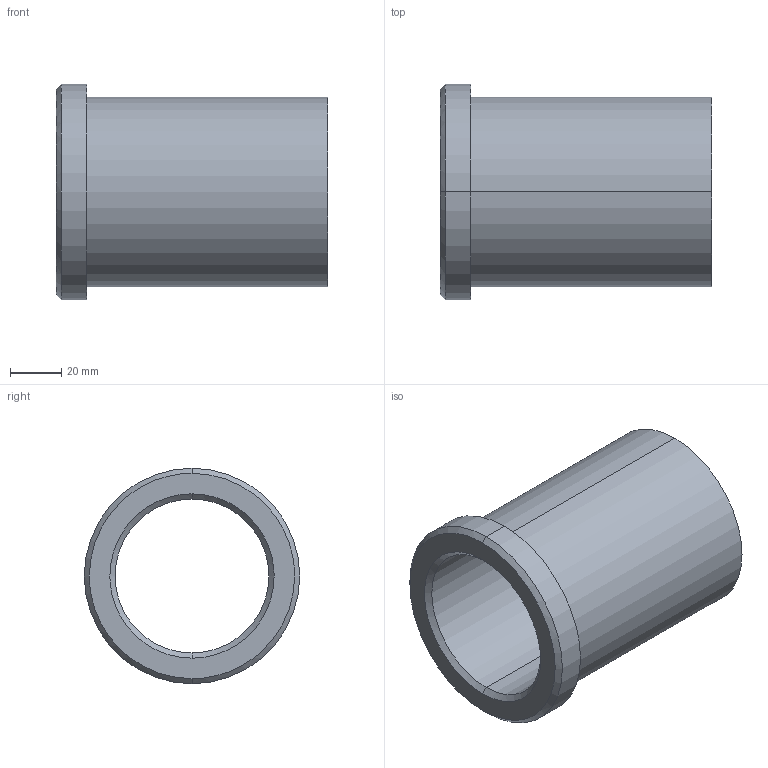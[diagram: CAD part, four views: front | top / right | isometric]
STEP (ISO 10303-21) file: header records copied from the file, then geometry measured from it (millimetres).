
FILE_DESCRIPTION(('CATIA V5 STEP Exchange'),'2;1');
FILE_NAME('C:\Users\Utente\Desktop\IO LAVORO\3D X SITO CF\X SITO\PLASTICA\353\353-60X106.stp','2021-05-14T17:59:22+00:00',('none'),('none'),'CATIA Version 5 Release 20 GA (IN-10)','CATIA V5 STEP AP203','none');
FILE_SCHEMA(('CONFIG_CONTROL_DESIGN'));
Length unit declared in the file: millimetre
Products named in the file (1): 353-60x106
Bounding box: 106 x 84 x 84 mm (x, y, z)
Volume: 169795.3 mm3; surface area: 49660.1 mm2
Topology: 1 solids, 1 shells, 15 faces, 48 edges, 36 vertices
Faces by surface type: cylinder 6, cone 4, plane 3, torus 2
Entity records: 680 total; most frequent: CARTESIAN_POINT 212, ORIENTED_EDGE 96, DIRECTION 70, EDGE_CURVE 48, AXIS2_PLACEMENT_3D 46, VERTEX_POINT 36, CIRCLE 30, EDGE_LOOP 18
